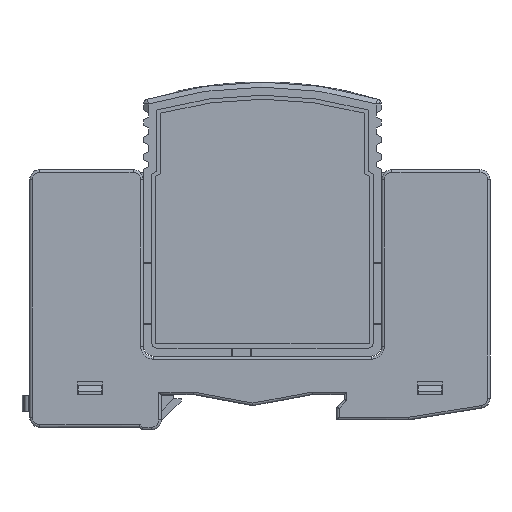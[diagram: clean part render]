
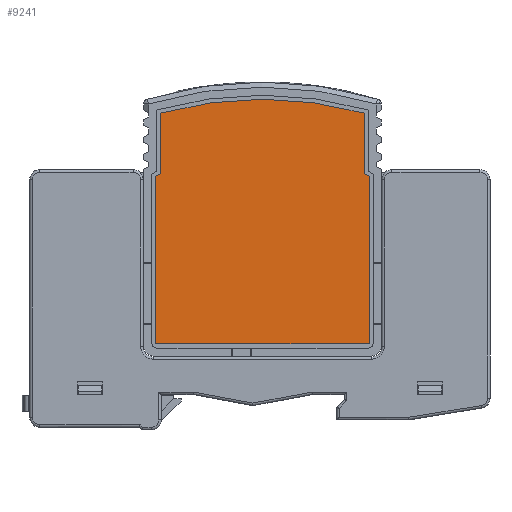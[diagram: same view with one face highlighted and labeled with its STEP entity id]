
A CAD part, front view. The second image highlights one B-rep face of the part: STEP entity #9241.
In plain terms, the highlighted planar face has unit normal (0, -1, 0).
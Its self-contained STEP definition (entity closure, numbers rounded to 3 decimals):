
#9241=ADVANCED_FACE('',(#29763),#29765,.F.);
#29763=FACE_BOUND('',#29764,.T.);
#29764=EDGE_LOOP('',(#46820,#46821,#46822,#46823,#46824,#46825,#46826,#46827,#46828,
#46829));
#29765=PLANE('',#29766);
#29766=AXIS2_PLACEMENT_3D('',#29767,#29768,#29769);
#29767=CARTESIAN_POINT('',(0.,0.,0.));
#29768=DIRECTION('',(0.,1.,0.));
#29769=DIRECTION('',(-1.,0.,0.));
#46820=ORIENTED_EDGE('',*,*,#59111,.T.);
#46821=ORIENTED_EDGE('',*,*,#59130,.T.);
#46822=ORIENTED_EDGE('',*,*,#59128,.T.);
#46823=ORIENTED_EDGE('',*,*,#59126,.T.);
#46824=ORIENTED_EDGE('',*,*,#59124,.T.);
#46825=ORIENTED_EDGE('',*,*,#59122,.T.);
#46826=ORIENTED_EDGE('',*,*,#59120,.T.);
#46827=ORIENTED_EDGE('',*,*,#59118,.T.);
#46828=ORIENTED_EDGE('',*,*,#59116,.T.);
#46829=ORIENTED_EDGE('',*,*,#59114,.T.);
#59111=EDGE_CURVE('',#70422,#70423,#70424,.T.);
#59114=EDGE_CURVE('',#70427,#70422,#70428,.F.);
#59116=EDGE_CURVE('',#70430,#70427,#70431,.T.);
#59118=EDGE_CURVE('',#70433,#70430,#70434,.T.);
#59120=EDGE_CURVE('',#70436,#70433,#70437,.T.);
#59122=EDGE_CURVE('',#70439,#70436,#70440,.F.);
#59124=EDGE_CURVE('',#70442,#70439,#70443,.T.);
#59126=EDGE_CURVE('',#70445,#70442,#70446,.T.);
#59128=EDGE_CURVE('',#70448,#70445,#70449,.T.);
#59130=EDGE_CURVE('',#70423,#70448,#70451,.F.);
#70422=VERTEX_POINT('',#105440);
#70423=VERTEX_POINT('',#105441);
#70424=LINE('',#105442,#105443);
#70427=VERTEX_POINT('',#105451);
#70428=CIRCLE('',#105452,0.2);
#70430=VERTEX_POINT('',#105459);
#70431=LINE('',#105460,#105461);
#70433=VERTEX_POINT('',#105466);
#70434=LINE('',#105467,#105468);
#70436=VERTEX_POINT('',#105473);
#70437=LINE('',#105474,#105475);
#70439=VERTEX_POINT('',#105480);
#70440=CIRCLE('',#105481,75.101);
#70442=VERTEX_POINT('',#105488);
#70443=LINE('',#105489,#105490);
#70445=VERTEX_POINT('',#105495);
#70446=LINE('',#105496,#105497);
#70448=VERTEX_POINT('',#105502);
#70449=LINE('',#105503,#105504);
#70451=CIRCLE('',#105509,0.2);
#105440=CARTESIAN_POINT('',(-20.4,0.,-9.));
#105441=CARTESIAN_POINT('',(21.4,0.,-9.));
#105442=CARTESIAN_POINT('',(-20.4,0.,-9.));
#105443=VECTOR('',#105444,1.);
#105444=DIRECTION('',(1.,0.,0.));
#105451=CARTESIAN_POINT('',(-20.6,0.,-8.8));
#105452=AXIS2_PLACEMENT_3D('',#105453,#105454,#105455);
#105453=CARTESIAN_POINT('',(-20.4,0.,-8.8));
#105454=DIRECTION('',(0.,1.,0.));
#105455=DIRECTION('',(0.,0.,-1.));
#105459=CARTESIAN_POINT('',(-20.6,0.,24.114));
#105460=CARTESIAN_POINT('',(-20.6,0.,24.114));
#105461=VECTOR('',#105462,1.);
#105462=DIRECTION('',(0.,0.,-1.));
#105466=CARTESIAN_POINT('',(-19.6,0.,24.692));
#105467=CARTESIAN_POINT('',(-19.6,0.,24.692));
#105468=VECTOR('',#105469,1.);
#105469=DIRECTION('',(-0.866,0.,-0.5));
#105473=CARTESIAN_POINT('',(-19.6,0.,36.66));
#105474=CARTESIAN_POINT('',(-19.6,0.,36.66));
#105475=VECTOR('',#105476,1.);
#105476=DIRECTION('',(0.,0.,-1.));
#105480=CARTESIAN_POINT('',(20.6,0.,36.66));
#105481=AXIS2_PLACEMENT_3D('',#105482,#105483,#105484);
#105482=CARTESIAN_POINT('',(0.5,0.,-35.701));
#105483=DIRECTION('',(0.,1.,0.));
#105484=DIRECTION('',(-0.268,0.,0.964));
#105488=CARTESIAN_POINT('',(20.6,0.,24.692));
#105489=CARTESIAN_POINT('',(20.6,0.,24.692));
#105490=VECTOR('',#105491,1.);
#105491=DIRECTION('',(0.,0.,1.));
#105495=CARTESIAN_POINT('',(21.6,0.,24.114));
#105496=CARTESIAN_POINT('',(21.6,0.,24.114));
#105497=VECTOR('',#105498,1.);
#105498=DIRECTION('',(-0.866,0.,0.5));
#105502=CARTESIAN_POINT('',(21.6,0.,-8.8));
#105503=CARTESIAN_POINT('',(21.6,0.,-8.8));
#105504=VECTOR('',#105505,1.);
#105505=DIRECTION('',(0.,0.,1.));
#105509=AXIS2_PLACEMENT_3D('',#105510,#105511,#105512);
#105510=CARTESIAN_POINT('',(21.4,0.,-8.8));
#105511=DIRECTION('',(-0.,1.,0.));
#105512=DIRECTION('',(1.,0.,0.));
